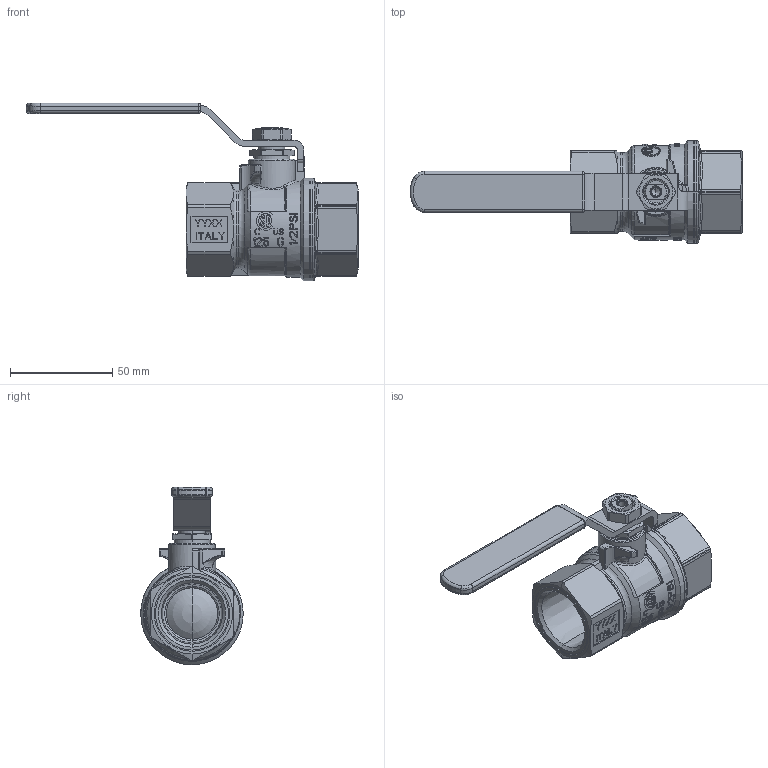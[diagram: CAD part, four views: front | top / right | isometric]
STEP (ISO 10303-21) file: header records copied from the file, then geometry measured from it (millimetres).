
FILE_DESCRIPTION(('Open CASCADE Model'),'2;1');
FILE_NAME('Open CASCADE Shape Model','2021-11-19T11:46:24',('Author'),( 'Open CASCADE'),'Open CASCADE STEP processor 7.3','Open CASCADE 7.3' ,'Unknown');
FILE_SCHEMA(('AUTOMOTIVE_DESIGN { 1 0 10303 214 1 1 1 1 }'));
Length unit declared in the file: millimetre
Products named in the file (24): Open CASCADE STEP translator 7.3 1; Open CASCADE STEP translator 7.3 1.1; Open CASCADE STEP translator 7.3 1.2; Open CASCADE STEP translator 7.3 1.3; Open CASCADE STEP translator 7.3 1.4; Open CASCADE STEP translator 7.3 1.5; Open CASCADE STEP translator 7.3 1.6; Open CASCADE STEP translator 7.3 1.7; Open CASCADE STEP translator 7.3 1.8; Open CASCADE STEP translator 7.3 1.9; Open CASCADE STEP translator 7.3 1.10; Open CASCADE STEP translator 7.3 1.11; Open CASCADE STEP translator 7.3 1.12; Open CASCADE STEP translator 7.3 1.13; Open CASCADE STEP translator 7.3 1.14; Open CASCADE STEP translator 7.3 1.15; Open CASCADE STEP translator 7.3 1.16; Open CASCADE STEP translator 7.3 1.17; Open CASCADE STEP translator 7.3 1.18; Open CASCADE STEP translator 7.3 1.19; Open CASCADE STEP translator 7.3 1.20; Open CASCADE STEP translator 7.3 1.21; Open CASCADE STEP translator 7.3 1.22; Open CASCADE STEP translator 7.3 1.23
Assembly tree (23 placements, depth 2):
  Open CASCADE STEP translator 7.3 1
    Open CASCADE STEP translator 7.3 1.1
    Open CASCADE STEP translator 7.3 1.2
    Open CASCADE STEP translator 7.3 1.3
    Open CASCADE STEP translator 7.3 1.4
    Open CASCADE STEP translator 7.3 1.5
    Open CASCADE STEP translator 7.3 1.6
    Open CASCADE STEP translator 7.3 1.7
    Open CASCADE STEP translator 7.3 1.8
    Open CASCADE STEP translator 7.3 1.9
    Open CASCADE STEP translator 7.3 1.10
    Open CASCADE STEP translator 7.3 1.11
    Open CASCADE STEP translator 7.3 1.12
    Open CASCADE STEP translator 7.3 1.13
    Open CASCADE STEP translator 7.3 1.14
    Open CASCADE STEP translator 7.3 1.15
    Open CASCADE STEP translator 7.3 1.16
    Open CASCADE STEP translator 7.3 1.17
    Open CASCADE STEP translator 7.3 1.18
    Open CASCADE STEP translator 7.3 1.19
    Open CASCADE STEP translator 7.3 1.20
    Open CASCADE STEP translator 7.3 1.21
    Open CASCADE STEP translator 7.3 1.22
    Open CASCADE STEP translator 7.3 1.23
Bounding box: 162 x 50 x 86.6 mm (x, y, z)
Volume: 126276.2 mm3; surface area: 69498.2 mm2
Topology: 14 solids, 23 shells, 1834 faces, 4962 edges, 3234 vertices
Faces by surface type: plane 862, bspline 418, cylinder 228, extrusion 115, cone 106, torus 75, revolution 16, sphere 14
Entity records: 160156 total; most frequent: CARTESIAN_POINT 69551, DIRECTION 13664, ORIENTED_EDGE 9860, PCURVE 9860, DEFINITIONAL_REPRESENTATION 9860, VECTOR 9002, LINE 8887, EDGE_CURVE 4955
